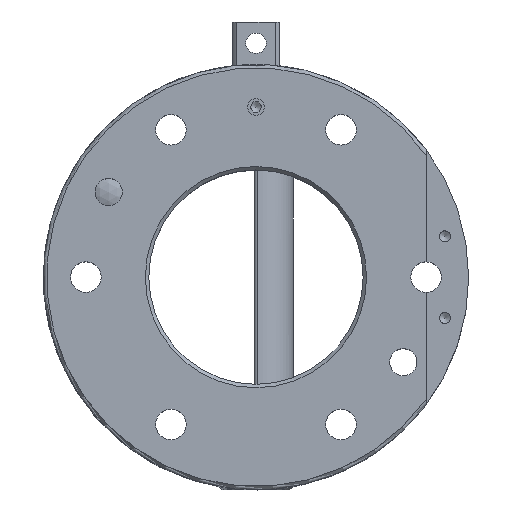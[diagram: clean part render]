
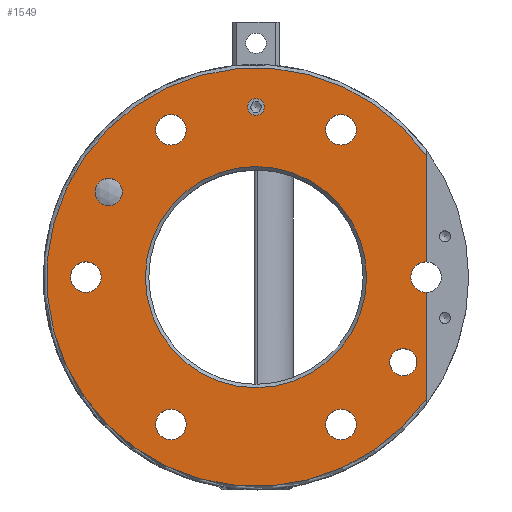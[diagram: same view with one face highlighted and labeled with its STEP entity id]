
A CAD part, top view. The second image highlights one B-rep face of the part: STEP entity #1549.
In plain terms, the highlighted planar face has unit normal (0, 0, 1).
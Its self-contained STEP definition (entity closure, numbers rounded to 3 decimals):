
#53=PLANE('',#1711);
#154=LINE('',#2998,#210);
#157=LINE('',#3004,#213);
#210=VECTOR('',#2075,31.309);
#213=VECTOR('',#2080,31.309);
#351=FACE_BOUND('',#589,.T.);
#352=FACE_BOUND('',#590,.T.);
#353=FACE_BOUND('',#591,.T.);
#354=FACE_BOUND('',#592,.T.);
#355=FACE_BOUND('',#593,.T.);
#356=FACE_BOUND('',#594,.T.);
#357=FACE_BOUND('',#595,.T.);
#358=FACE_BOUND('',#596,.T.);
#359=FACE_BOUND('',#597,.T.);
#455=FACE_OUTER_BOUND('',#588,.T.);
#588=EDGE_LOOP('',(#1333,#1334,#1335,#1336));
#589=EDGE_LOOP('',(#1337));
#590=EDGE_LOOP('',(#1338));
#591=EDGE_LOOP('',(#1339));
#592=EDGE_LOOP('',(#1340));
#593=EDGE_LOOP('',(#1341));
#594=EDGE_LOOP('',(#1342));
#595=EDGE_LOOP('',(#1343));
#596=EDGE_LOOP('',(#1344));
#597=EDGE_LOOP('',(#1345));
#670=CIRCLE('',#1608,2.459);
#724=CIRCLE('',#1709,61.5);
#725=CIRCLE('',#1712,4.5);
#726=CIRCLE('',#1713,32.5);
#727=CIRCLE('',#1714,4.);
#728=CIRCLE('',#1715,4.);
#729=CIRCLE('',#1716,4.5);
#730=CIRCLE('',#1717,4.5);
#731=CIRCLE('',#1718,4.5);
#732=CIRCLE('',#1719,4.5);
#733=CIRCLE('',#1720,4.5);
#777=VERTEX_POINT('',#2306);
#857=VERTEX_POINT('',#2973);
#858=VERTEX_POINT('',#2984);
#859=VERTEX_POINT('',#2997);
#861=VERTEX_POINT('',#3003);
#862=VERTEX_POINT('',#3006);
#863=VERTEX_POINT('',#3008);
#864=VERTEX_POINT('',#3010);
#865=VERTEX_POINT('',#3012);
#866=VERTEX_POINT('',#3014);
#867=VERTEX_POINT('',#3016);
#868=VERTEX_POINT('',#3018);
#869=VERTEX_POINT('',#3020);
#921=EDGE_CURVE('',#777,#777,#670,.T.);
#1035=EDGE_CURVE('',#858,#857,#724,.T.);
#1036=EDGE_CURVE('',#859,#857,#154,.T.);
#1039=EDGE_CURVE('',#858,#861,#157,.T.);
#1040=EDGE_CURVE('',#861,#859,#725,.T.);
#1041=EDGE_CURVE('',#862,#862,#726,.T.);
#1042=EDGE_CURVE('',#863,#863,#727,.T.);
#1043=EDGE_CURVE('',#864,#864,#728,.T.);
#1044=EDGE_CURVE('',#865,#865,#729,.T.);
#1045=EDGE_CURVE('',#866,#866,#730,.T.);
#1046=EDGE_CURVE('',#867,#867,#731,.T.);
#1047=EDGE_CURVE('',#868,#868,#732,.T.);
#1048=EDGE_CURVE('',#869,#869,#733,.T.);
#1333=ORIENTED_EDGE('',*,*,#1035,.F.);
#1334=ORIENTED_EDGE('',*,*,#1039,.T.);
#1335=ORIENTED_EDGE('',*,*,#1040,.T.);
#1336=ORIENTED_EDGE('',*,*,#1036,.T.);
#1337=ORIENTED_EDGE('',*,*,#1041,.F.);
#1338=ORIENTED_EDGE('',*,*,#1042,.T.);
#1339=ORIENTED_EDGE('',*,*,#1043,.T.);
#1340=ORIENTED_EDGE('',*,*,#921,.T.);
#1341=ORIENTED_EDGE('',*,*,#1044,.T.);
#1342=ORIENTED_EDGE('',*,*,#1045,.T.);
#1343=ORIENTED_EDGE('',*,*,#1046,.T.);
#1344=ORIENTED_EDGE('',*,*,#1047,.T.);
#1345=ORIENTED_EDGE('',*,*,#1048,.T.);
#1549=ADVANCED_FACE('',(#455,#351,#352,#353,#354,#355,#356,#357,#358,#359),
#53,.F.);
#1608=AXIS2_PLACEMENT_3D('',#2307,#1835,#1836);
#1709=AXIS2_PLACEMENT_3D('',#2995,#2071,#2072);
#1711=AXIS2_PLACEMENT_3D('',#3002,#2078,#2079);
#1712=AXIS2_PLACEMENT_3D('',#3005,#2081,#2082);
#1713=AXIS2_PLACEMENT_3D('',#3007,#2083,#2084);
#1714=AXIS2_PLACEMENT_3D('',#3009,#2085,#2086);
#1715=AXIS2_PLACEMENT_3D('',#3011,#2087,#2088);
#1716=AXIS2_PLACEMENT_3D('',#3013,#2089,#2090);
#1717=AXIS2_PLACEMENT_3D('',#3015,#2091,#2092);
#1718=AXIS2_PLACEMENT_3D('',#3017,#2093,#2094);
#1719=AXIS2_PLACEMENT_3D('',#3019,#2095,#2096);
#1720=AXIS2_PLACEMENT_3D('',#3021,#2097,#2098);
#1835=DIRECTION('center_axis',(0.,0.,-1.));
#1836=DIRECTION('ref_axis',(1.,0.,0.));
#2071=DIRECTION('center_axis',(0.,0.,-1.));
#2072=DIRECTION('ref_axis',(-1.,0.,0.));
#2075=DIRECTION('',(0.,1.,0.));
#2078=DIRECTION('center_axis',(0.,0.,-1.));
#2079=DIRECTION('ref_axis',(-1.,0.,0.));
#2080=DIRECTION('',(0.,1.,0.));
#2081=DIRECTION('center_axis',(0.,0.,-1.));
#2082=DIRECTION('ref_axis',(-1.,0.,0.));
#2083=DIRECTION('center_axis',(0.,0.,1.));
#2084=DIRECTION('ref_axis',(-1.,0.,0.));
#2085=DIRECTION('center_axis',(0.,0.,-1.));
#2086=DIRECTION('ref_axis',(1.,0.,0.));
#2087=DIRECTION('center_axis',(0.,0.,-1.));
#2088=DIRECTION('ref_axis',(1.,0.,0.));
#2089=DIRECTION('center_axis',(0.,0.,-1.));
#2090=DIRECTION('ref_axis',(-1.,0.,0.));
#2091=DIRECTION('center_axis',(0.,0.,-1.));
#2092=DIRECTION('ref_axis',(-1.,0.,0.));
#2093=DIRECTION('center_axis',(0.,0.,-1.));
#2094=DIRECTION('ref_axis',(-1.,0.,0.));
#2095=DIRECTION('center_axis',(0.,0.,-1.));
#2096=DIRECTION('ref_axis',(-1.,0.,0.));
#2097=DIRECTION('center_axis',(0.,0.,-1.));
#2098=DIRECTION('ref_axis',(-1.,0.,0.));
#2306=CARTESIAN_POINT('',(2.459,50.,0.));
#2307=CARTESIAN_POINT('Origin',(0.,50.,0.));
#2973=CARTESIAN_POINT('',(50.,35.809,0.));
#2984=CARTESIAN_POINT('',(50.,-35.809,0.));
#2995=CARTESIAN_POINT('Origin',(0.,0.,0.));
#2997=CARTESIAN_POINT('',(50.,4.5,0.));
#2998=CARTESIAN_POINT('',(50.,4.5,0.));
#3002=CARTESIAN_POINT('Origin',(0.,0.,0.));
#3003=CARTESIAN_POINT('',(50.,-4.5,0.));
#3004=CARTESIAN_POINT('',(50.,-35.809,0.));
#3005=CARTESIAN_POINT('Origin',(50.,0.,0.));
#3006=CARTESIAN_POINT('',(32.5,0.,0.));
#3007=CARTESIAN_POINT('Origin',(0.,0.,0.));
#3008=CARTESIAN_POINT('',(47.301,-25.,0.));
#3009=CARTESIAN_POINT('Origin',(43.301,-25.,0.));
#3010=CARTESIAN_POINT('',(-39.301,25.,0.));
#3011=CARTESIAN_POINT('Origin',(-43.301,25.,0.));
#3012=CARTESIAN_POINT('',(-45.5,0.,0.));
#3013=CARTESIAN_POINT('Origin',(-50.,0.,0.));
#3014=CARTESIAN_POINT('',(-20.5,43.301,0.));
#3015=CARTESIAN_POINT('Origin',(-25.,43.301,0.));
#3016=CARTESIAN_POINT('',(29.5,43.301,0.));
#3017=CARTESIAN_POINT('Origin',(25.,43.301,0.));
#3018=CARTESIAN_POINT('',(29.5,-43.301,0.));
#3019=CARTESIAN_POINT('Origin',(25.,-43.301,0.));
#3020=CARTESIAN_POINT('',(-20.5,-43.301,0.));
#3021=CARTESIAN_POINT('Origin',(-25.,-43.301,0.));
